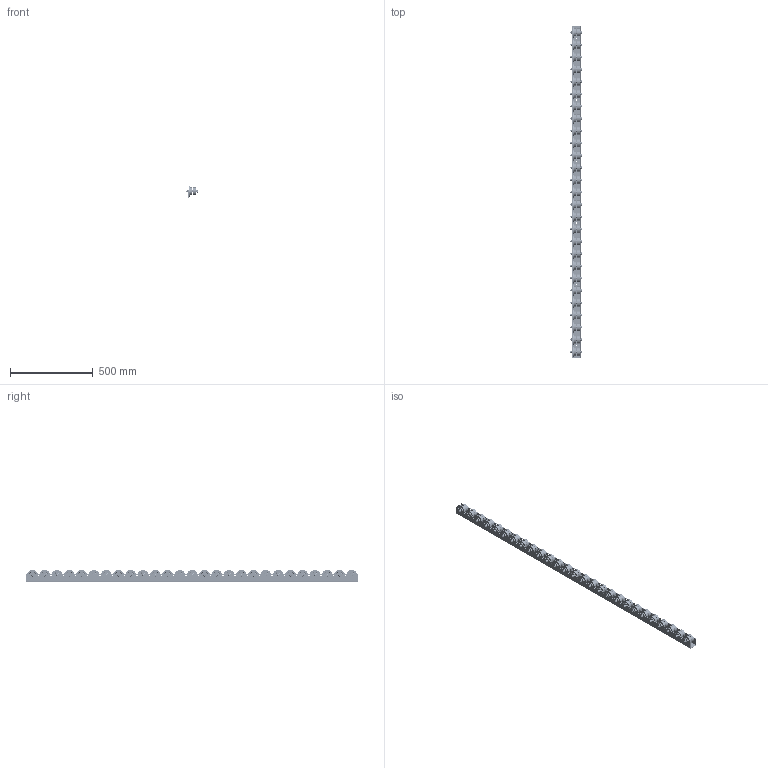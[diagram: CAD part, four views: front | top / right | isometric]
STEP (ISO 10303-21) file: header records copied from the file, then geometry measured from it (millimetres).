
FILE_DESCRIPTION( ( 'Unknown' ), '1' );
FILE_NAME( 'D:/Construktor/Listwy rolkowe 2015/Listwa T648/Listwa T648.stp', 'Unknown', ( 'Unknown' ), ( 'Unknown' ), 'PSStep 17.0.49', 'Unknown', ' ' );
FILE_SCHEMA( ( 'AUTOMOTIVE_DESIGN { 1 0 10303 214 1 1 1 1 }' ) );
Length unit declared in the file: millimetre
Products named in the file (6): Assem1; DIN_931_M8x35; Nut_DIN_980_M_M8_v10.50; Ceownik T643K; 620K rolka; 620 rolka
Assembly tree (109 placements, depth 2):
  Assem1
    DIN_931_M8x35  x27
    Nut_DIN_980_M_M8_v10.50  x27
    Ceownik T643K
    620K rolka  x27
    620 rolka  x27
Bounding box: 70.3 x 2000 x 72.99 mm (x, y, z)
Volume: 1994021.3 mm3; surface area: 1250013.3 mm2
Topology: 109 solids, 109 shells, 2934 faces, 5994 edges, 3791 vertices
Faces by surface type: plane 1063, cylinder 791, torus 675, cone 405
Full cylindrical faces by diameter (mm): 6.466 x27, 6.647 x27, 6.697 x27, 8 x54, 8.2 x112, 8.3 x54, 8.4 x27, 11.63 x27, 12.5 x27, 12.6 x108, 29.5 x108, 43.6 x108, 48 x54, 66 x27
Entity records: 9498 total; most frequent: DIRECTION 1368, CARTESIAN_POINT 1338, ORIENTED_EDGE 806, AXIS2_PLACEMENT_3D 661, EDGE_LOOP 644, EDGE_CURVE 403, FACE_OUTER_BOUND 392, VERTEX_POINT 367
